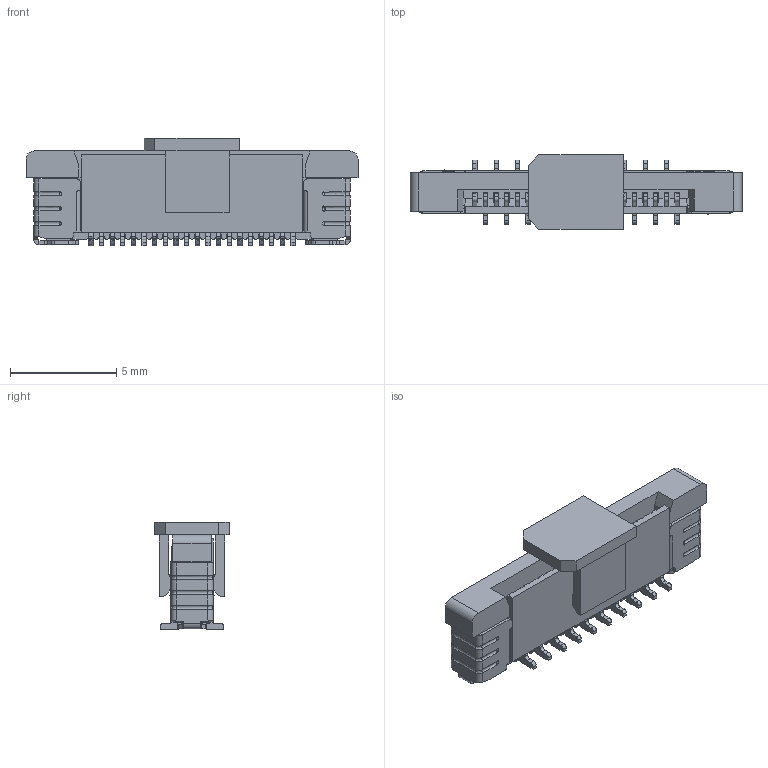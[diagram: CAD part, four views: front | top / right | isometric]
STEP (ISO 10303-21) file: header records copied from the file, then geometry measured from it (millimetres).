
FILE_DESCRIPTION (( 'STEP AP203' ), '1' );
FILE_NAME ('GT-F0504SV45-XXSMT02.STEP', '2023-12-27T07:58:12', ( 'Microsoft' ), ( 'Microsoft' ), 'SwSTEP 2.0', 'SolidWorks 2023', '' );
FILE_SCHEMA (( 'CONFIG_CONTROL_DESIGN' ));
Products named in the file (1): GT-F0504SV45-XXSMT02
Bounding box: 15.6 x 3.5 x 5.06 mm (x, y, z)
Surface area: 743.7 mm2 (no closed solid volume)
Topology: 0 solids, 8 shells, 2172 faces, 6930 edges, 4546 vertices
Faces by surface type: plane 1293, cylinder 713, bspline 166
Entity records: 88108 total; most frequent: CARTESIAN_POINT 27967, ORIENTED_EDGE 13766, DIRECTION 11206, EDGE_CURVE 6928, LINE 4552, VECTOR 4552, VERTEX_POINT 4546, AXIS2_PLACEMENT_3D 3327
